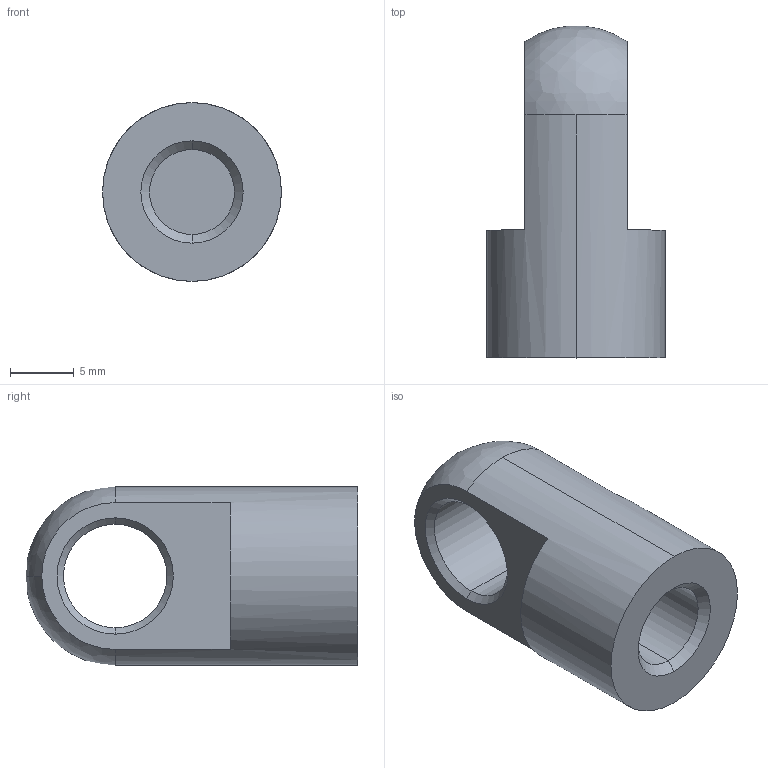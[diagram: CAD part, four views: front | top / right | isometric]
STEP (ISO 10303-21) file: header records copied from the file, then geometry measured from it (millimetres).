
FILE_DESCRIPTION (( 'STEP AP214' ), '1' );
FILE_NAME ('18.08A1ADT8.STEP', '2017-11-09T12:02:51', ( '' ), ( '' ), 'SwSTEP 2.0', 'SolidWorks 2016', '' );
FILE_SCHEMA (( 'AUTOMOTIVE_DESIGN' ));
Length unit declared in the file: millimetre
Products named in the file (1): 18.08A1ADT8
Bounding box: 14 x 25.97 x 14 mm (x, y, z)
Volume: 2232.5 mm3; surface area: 1590.1 mm2
Topology: 1 solids, 1 shells, 20 faces, 45 edges, 28 vertices
Faces by surface type: cylinder 6, cone 6, plane 6, bspline 2
Entity records: 628 total; most frequent: CARTESIAN_POINT 124, DIRECTION 110, ORIENTED_EDGE 90, AXIS2_PLACEMENT_3D 46, EDGE_CURVE 45, VERTEX_POINT 28, CIRCLE 27, EDGE_LOOP 23
